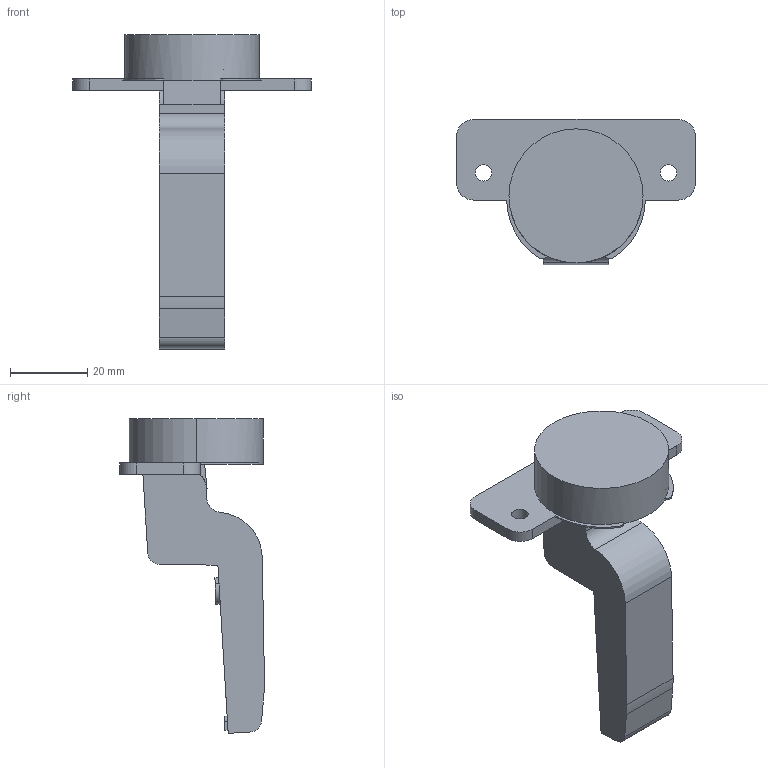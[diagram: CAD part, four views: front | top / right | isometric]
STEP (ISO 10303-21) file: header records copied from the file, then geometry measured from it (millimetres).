
FILE_DESCRIPTION (( 'STEP AP203' ), '1' );
FILE_NAME ('C82C276F-DTC 3D close.STEP', '2024-09-09T06:37:20', ( '微软用户' ), ( '微软中国' ), 'SwSTEP 2.0', 'SolidWorks 2021', '' );
FILE_SCHEMA (( 'CONFIG_CONTROL_DESIGN' ));
Length unit declared in the file: millimetre
Products named in the file (1): C82C276F-DTC 3D close
Bounding box: 61.96 x 37.62 x 81.71 mm (x, y, z)
Volume: 31838.2 mm3; surface area: 9865.5 mm2
Topology: 1 solids, 1 shells, 72 faces, 196 edges, 130 vertices
Faces by surface type: plane 34, cylinder 32, bspline 4, torus 2
Entity records: 2415 total; most frequent: CARTESIAN_POINT 533, ORIENTED_EDGE 392, DIRECTION 362, EDGE_CURVE 196, VERTEX_POINT 130, AXIS2_PLACEMENT_3D 127, LINE 108, VECTOR 108
